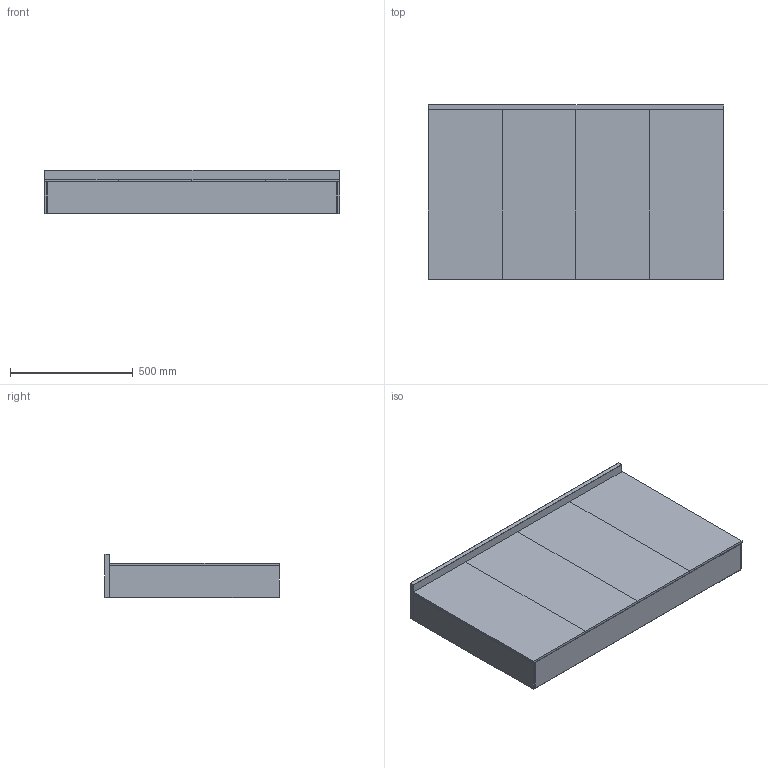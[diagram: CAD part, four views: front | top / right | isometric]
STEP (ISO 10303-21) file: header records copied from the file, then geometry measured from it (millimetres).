
FILE_DESCRIPTION (( 'STEP AP203' ), '1' );
FILE_NAME ('H3-MC-120-Shell-drawing.STEP', '2024-10-23T13:48:59', ( '' ), ( '' ), 'SwSTEP 2.0', 'SolidWorks 2024', '' );
FILE_SCHEMA (( 'CONFIG_CONTROL_DESIGN' ));
Length unit declared in the file: millimetre
Products named in the file (5): H3-MC-120-Shell-drawing; Topp-1200x175x20; Spegeldörr-300x690x10; Sida-690x130x10; Botten-1180x130
Assembly tree (8 placements, depth 2):
  H3-MC-120-Shell-drawing
    Topp-1200x175x20
    Sida-690x130x10  x2
    Spegeldörr-300x690x10  x4
    Botten-1180x130
Bounding box: 1200 x 710 x 175 mm (x, y, z)
Volume: 16724644.7 mm3; surface area: 2942994.1 mm2
Topology: 8 solids, 8 shells, 128 faces, 272 edges, 128 vertices
Faces by surface type: plane 48, cylinder 48, sphere 32
Entity records: 2667 total; most frequent: DIRECTION 418, CARTESIAN_POINT 331, ORIENTED_EDGE 312, AXIS2_PLACEMENT_3D 167, EDGE_CURVE 156, LINE 84, EDGE_LOOP 84, VECTOR 84
